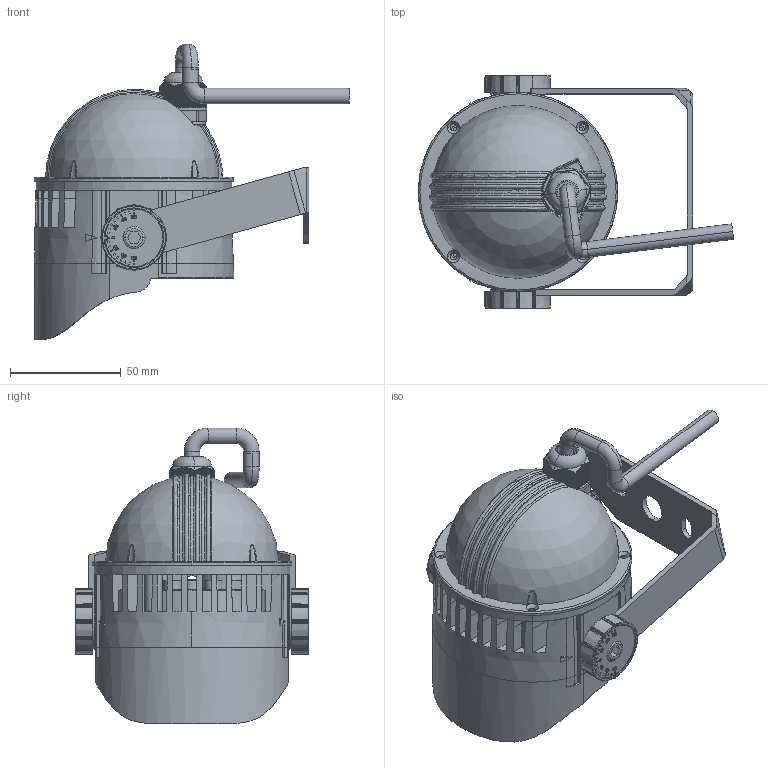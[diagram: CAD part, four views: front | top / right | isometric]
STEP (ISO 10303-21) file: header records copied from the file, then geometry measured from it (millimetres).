
FILE_DESCRIPTION((''),'2;1');
FILE_NAME('B3BG0126-0311_ASM_ASM','2022-03-11T',('Administrator'),(''),'CREO PARAMETRIC BY PTC INC, 2015290','CREO PARAMETRIC BY PTC INC, 2015290','');
FILE_SCHEMA(('CONFIG_CONTROL_DESIGN'));
Length unit declared in the file: millimetre
Products named in the file (25): B3BG__3; XINBOLI_2_2; MSBR-10_4_5; B3BGDBAN_1; MSBR-11_3_2; B55-012B_024B_1; B55_50MM_CEW-NC_9_1; 012B_024B_1; YT-M3X4L_1; B55-012B_024B_ASM_1_ASM; 3BGFGQ_2; 3BGFPMIAN_2; FWOWANG-50D5-3_1; PAD_1_135_1_1; FANGUANGSAI-1_1_135_1_1; FANGSHUISAI_1_135_2_1; POWER-LINE_8_1; PG9_ASM_1_ASM_1_ASM; M3_3_6; B3BG0126_ASM_4_ASM; 1001_2; 3BG-R_7; MSBR-21_2_3; M6-10LS; B3BG0126-0311_ASM_ASM
Assembly tree (31 placements, depth 4):
  B3BG0126-0311_ASM_ASM
    B3BG0126_ASM_4_ASM
      B3BG__3
      XINBOLI_2_2
      MSBR-10_4_5
      B3BGDBAN_1
      MSBR-11_3_2
      B55-012B_024B_ASM_1_ASM
        B55-012B_024B_1
        B55_50MM_CEW-NC_9_1
        012B_024B_1
        YT-M3X4L_1  x2
      3BGFGQ_2
      3BGFPMIAN_2
      FWOWANG-50D5-3_1
      PG9_ASM_1_ASM_1_ASM
        PAD_1_135_1_1
        FANGUANGSAI-1_1_135_1_1
        FANGSHUISAI_1_135_2_1
        POWER-LINE_8_1
      M3_3_6  x4
    1001_2
    3BG-R_7  x2
    MSBR-21_2_3  x2
    M6-10LS  x2
Bounding box: 142.35 x 105.57 x 133.64 mm (x, y, z)
Volume: 227928.9 mm3; surface area: 175208.2 mm2
Topology: 28 solids, 29 shells, 5944 faces, 16876 edges, 11192 vertices
Faces by surface type: plane 4171, cylinder 1029, cone 341, bspline 206, torus 138, extrusion 44, sphere 15
Entity records: 171045 total; most frequent: CARTESIAN_POINT 50073, ORIENTED_EDGE 26740, DIRECTION 22787, EDGE_CURVE 13370, VERTEX_POINT 8877, VECTOR 8661, LINE 8617, AXIS2_PLACEMENT_3D 7063
